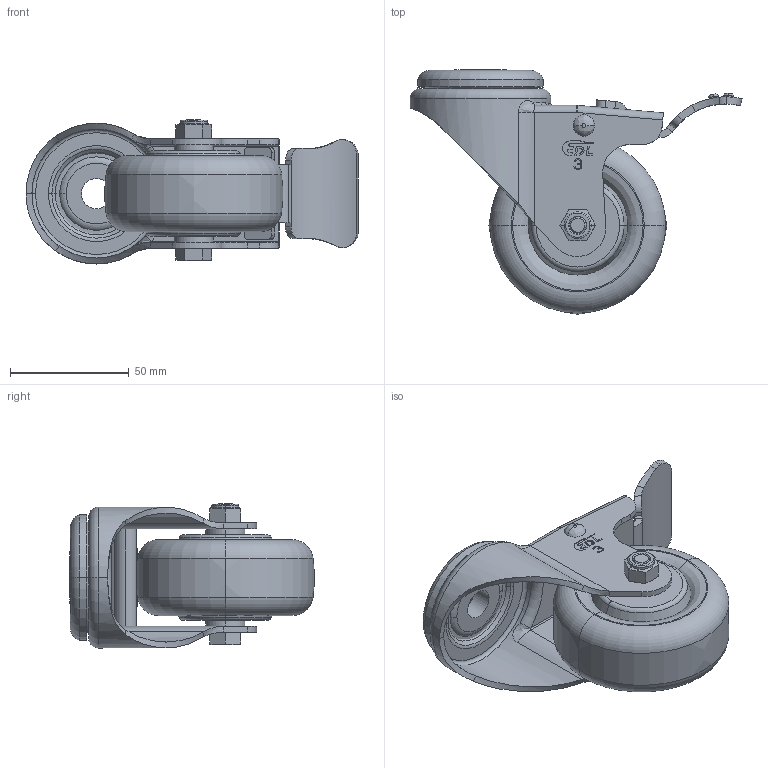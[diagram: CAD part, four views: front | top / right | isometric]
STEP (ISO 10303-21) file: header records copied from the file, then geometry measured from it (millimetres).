
FILE_DESCRIPTION((''),'2;1');
FILE_NAME('S54783L_ASM','2021-08-10T',('lenovo'),(''),'PRO/ENGINEER BY PARAMETRIC TECHNOLOGY CORPORATION, 2010280','PRO/ENGINEER BY PARAMETRIC TECHNOLOGY CORPORATION, 2010280','');
FILE_SCHEMA(('CONFIG_CONTROL_DESIGN'));
Length unit declared in the file: millimetre
Products named in the file (7): S543-12; S540-27; 503-986; S540-33; S540-34; S540-14; S54783L_ASM
Assembly tree (6 placements, depth 2):
  S54783L_ASM
    S543-12
    S540-27
    503-986
    S540-33
    S540-34
    S540-14
Bounding box: 139.79 x 102.94 x 60.65 mm (x, y, z)
Volume: 189992.9 mm3; surface area: 55718.7 mm2
Topology: 10 solids, 10 shells, 377 faces, 907 edges, 564 vertices
Faces by surface type: plane 181, cylinder 92, cone 36, torus 34, bspline 30, sphere 4
Entity records: 13602 total; most frequent: CARTESIAN_POINT 4730, ORIENTED_EDGE 1814, DIRECTION 1809, EDGE_CURVE 907, AXIS2_PLACEMENT_3D 640, VERTEX_POINT 564, VECTOR 529, LINE 529
